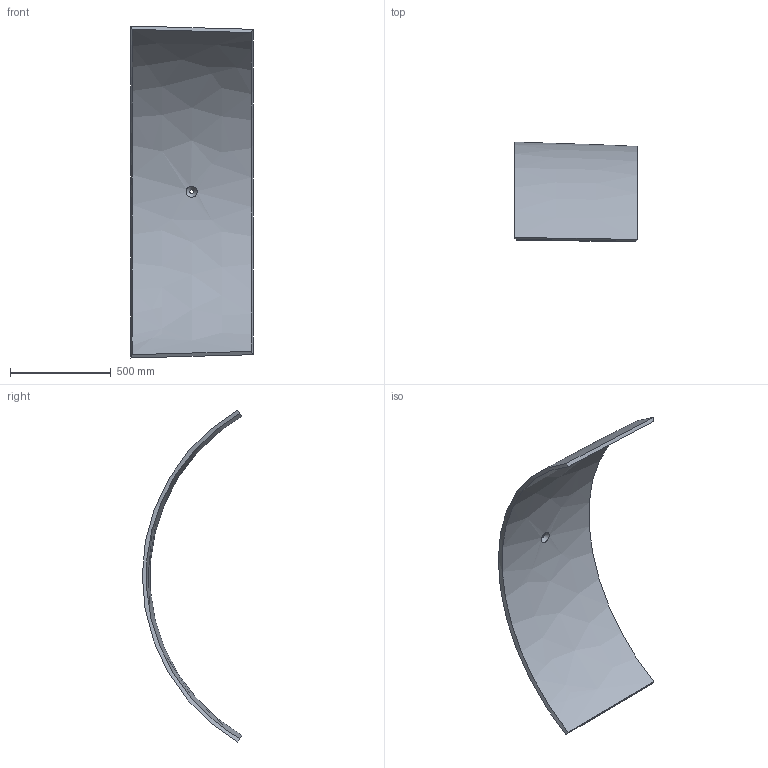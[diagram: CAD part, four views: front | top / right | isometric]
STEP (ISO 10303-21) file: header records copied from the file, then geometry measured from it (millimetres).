
FILE_DESCRIPTION (( 'STEP AP214' ), '1' );
FILE_NAME ('P14.STEP', '2025-01-09T19:43:26', ( '' ), ( '' ), 'SwSTEP 2.0', 'SolidWorks 2024', '' );
FILE_SCHEMA (( 'AUTOMOTIVE_DESIGN' ));
Length unit declared in the file: inch
Products named in the file (1): P14
Bounding box: 606.42 x 493.78 x 1648.14 mm (x, y, z)
Volume: 22339370.2 mm3; surface area: 2440852.7 mm2
Topology: 1 solids, 1 shells, 8 faces, 18 edges, 12 vertices
Faces by surface type: bspline 7, cylinder 1
Full cylindrical faces by diameter (mm): 19.447 x1
Entity records: 2446 total; most frequent: CARTESIAN_POINT 2298, ORIENTED_EDGE 30, EDGE_CURVE 15, B_SPLINE_CURVE_WITH_KNOTS 15, EDGE_LOOP 12, VERTEX_POINT 11, FACE_OUTER_BOUND 10, ADVANCED_FACE 8
